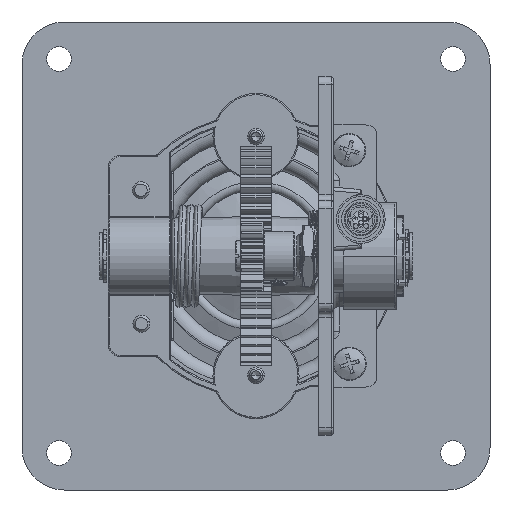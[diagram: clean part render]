
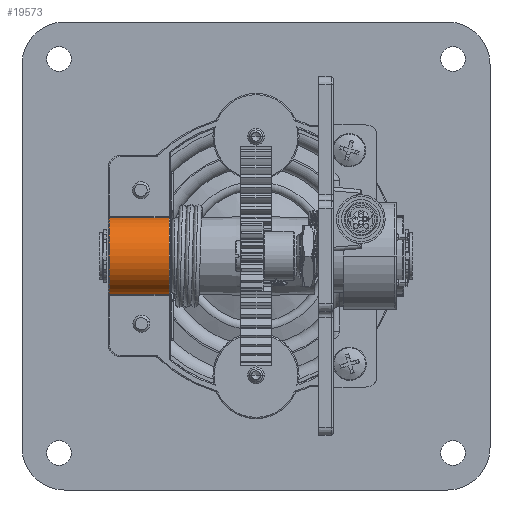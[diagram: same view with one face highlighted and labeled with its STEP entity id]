
A CAD part, front view. The second image highlights one B-rep face of the part: STEP entity #19573.
In plain terms, the highlighted cylindrical face has radius 7.938 mm (diameter 15.875 mm), a partial arc.
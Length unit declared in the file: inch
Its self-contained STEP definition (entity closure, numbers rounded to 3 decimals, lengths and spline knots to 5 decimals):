
#87 = DIRECTION ( 'NONE',  ( 1., 0., 0. ) ) ;
#339 = CARTESIAN_POINT ( 'NONE',  ( 0.18888, -0.38469, -0.31235 ) ) ;
#2533 = EDGE_CURVE ( 'NONE', #16572, #12254, #21871, .T. ) ;
#3027 = VECTOR ( 'NONE', #87, 39.37008 ) ;
#3700 = CARTESIAN_POINT ( 'NONE',  ( -1.19, -0.38469, 0.31235 ) ) ;
#7101 = VECTOR ( 'NONE', #34327, 39.37008 ) ;
#7713 = VERTEX_POINT ( 'NONE', #43084 ) ;
#9649 = DIRECTION ( 'NONE',  ( -1., 0., 0. ) ) ;
#10035 = CIRCLE ( 'NONE', #25321, 0.3125 ) ;
#10194 = AXIS2_PLACEMENT_3D ( 'NONE', #16639, #32575, #21459 ) ;
#11861 = CIRCLE ( 'NONE', #10194, 0.3125 ) ;
#12254 = VERTEX_POINT ( 'NONE', #3700 ) ;
#15486 = ORIENTED_EDGE ( 'NONE', *, *, #45848, .T. ) ;
#15678 = EDGE_LOOP ( 'NONE', ( #35759, #15486, #40655, #35138 ) ) ;
#16572 = VERTEX_POINT ( 'NONE', #30932 ) ;
#16639 = CARTESIAN_POINT ( 'NONE',  ( -1.19, -0.375, 0. ) ) ;
#16691 = VERTEX_POINT ( 'NONE', #17891 ) ;
#17348 = CARTESIAN_POINT ( 'NONE',  ( -0.705, -0.375, 0. ) ) ;
#17891 = CARTESIAN_POINT ( 'NONE',  ( -0.705, -0.38469, -0.31235 ) ) ;
#19298 = DIRECTION ( 'NONE',  ( -1., 0., 0. ) ) ;
#19573 = ADVANCED_FACE ( 'NONE', ( #41459 ), #37436, .T. ) ;
#21459 = DIRECTION ( 'NONE',  ( 0., 0., -1. ) ) ;
#21871 = LINE ( 'NONE', #30850, #7101 ) ;
#25321 = AXIS2_PLACEMENT_3D ( 'NONE', #17348, #9649, #33542 ) ;
#25866 = EDGE_CURVE ( 'NONE', #16691, #16572, #10035, .T. ) ;
#30850 = CARTESIAN_POINT ( 'NONE',  ( 0.18888, -0.38469, 0.31235 ) ) ;
#30932 = CARTESIAN_POINT ( 'NONE',  ( -0.705, -0.38469, 0.31235 ) ) ;
#32575 = DIRECTION ( 'NONE',  ( 1., 0., 0. ) ) ;
#33542 = DIRECTION ( 'NONE',  ( 0., 0., -1. ) ) ;
#34327 = DIRECTION ( 'NONE',  ( -1., 0., 0. ) ) ;
#34719 = DIRECTION ( 'NONE',  ( 0., 0., 1. ) ) ;
#35138 = ORIENTED_EDGE ( 'NONE', *, *, #25866, .T. ) ;
#35759 = ORIENTED_EDGE ( 'NONE', *, *, #2533, .T. ) ;
#37436 = CYLINDRICAL_SURFACE ( 'NONE', #40519, 0.3125 ) ;
#39279 = CARTESIAN_POINT ( 'NONE',  ( 0.18888, -0.375, 0. ) ) ;
#40519 = AXIS2_PLACEMENT_3D ( 'NONE', #39279, #19298, #34719 ) ;
#40655 = ORIENTED_EDGE ( 'NONE', *, *, #48259, .T. ) ;
#41459 = FACE_OUTER_BOUND ( 'NONE', #15678, .T. ) ;
#43084 = CARTESIAN_POINT ( 'NONE',  ( -1.19, -0.38469, -0.31235 ) ) ;
#45350 = LINE ( 'NONE', #339, #3027 ) ;
#45848 = EDGE_CURVE ( 'NONE', #12254, #7713, #11861, .T. ) ;
#48259 = EDGE_CURVE ( 'NONE', #7713, #16691, #45350, .T. ) ;
